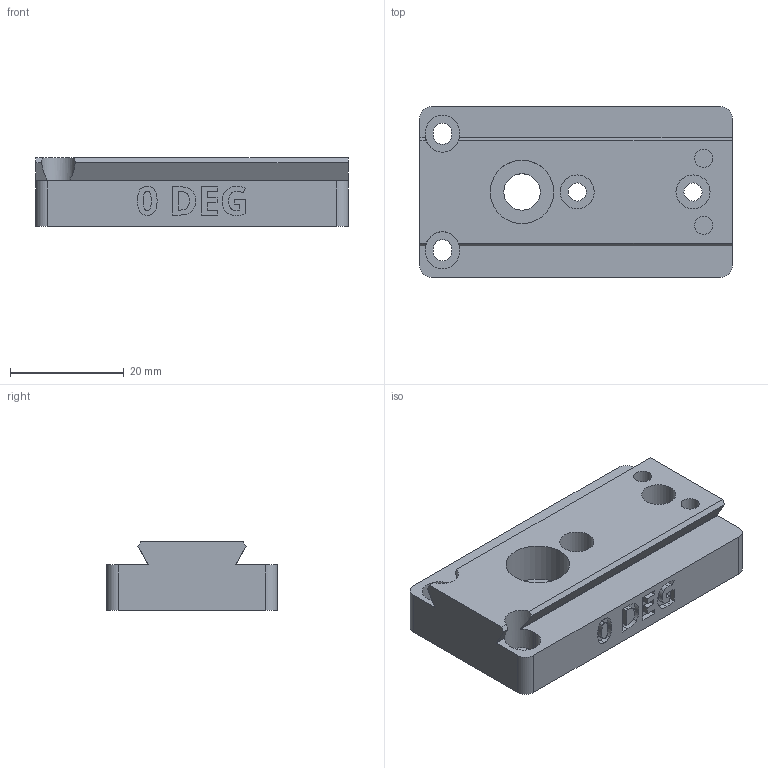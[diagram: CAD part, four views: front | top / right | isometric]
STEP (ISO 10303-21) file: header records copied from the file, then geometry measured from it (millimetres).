
FILE_DESCRIPTION(/* description */ ('STEP AP242 Edition 2','CAx-IF Rec.Pracs.---Representation and Presentation of Product Manufacturing Information (PMI)---4.0---2014-10-13','CAx-IF Rec.Pracs.---3D Tessellated Geometry---0.4---2014-09-14','2;1','CAx-IF Rec.Pracs.---User Defined Attributes---1.5---2016-08-15'),/* implementation_level */ '2;1');
FILE_NAME(/* name */ 'Camera Wedges - CAMERA MOUNTING WEDGE, POS, 0 DEG',/* time_stamp */ '2026-07-08T20:37:22Z',/* author */ (''),/* organization */ (''),/* preprocessor_version */ 'ST-DEVELOPER v20',/* originating_system */ 'ONSHAPE BY PTC INC, 1.217',/* authorisation */ ' ');
FILE_SCHEMA (('AP242_MANAGED_MODEL_BASED_3D_ENGINEERING_MIM_LF { 1 0 10303 442 3 1 4 }'));
Length unit declared in the file: metre
Products named in the file (1): CAMERA MOUNTING WEDGE, POS, 0 DEG
Bounding box: 55 x 30 x 12.1 mm (x, y, z)
Volume: 14337.5 mm3; surface area: 6657.7 mm2
Topology: 1 solids, 1 shells, 206 faces, 558 edges, 372 vertices
Faces by surface type: plane 110, bspline 60, cylinder 36
Full cylindrical faces by diameter (mm): 3.2 x4, 6 x2, 6.4 x1, 11.2 x1
Entity records: 6668 total; most frequent: CARTESIAN_POINT 1789, ORIENTED_EDGE 1100, DIRECTION 808, EDGE_CURVE 550, VERTEX_POINT 372, LINE 346, VECTOR 346, EDGE_LOOP 242
